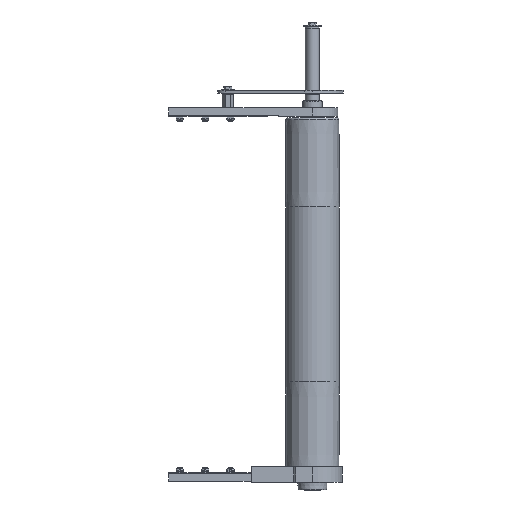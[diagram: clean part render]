
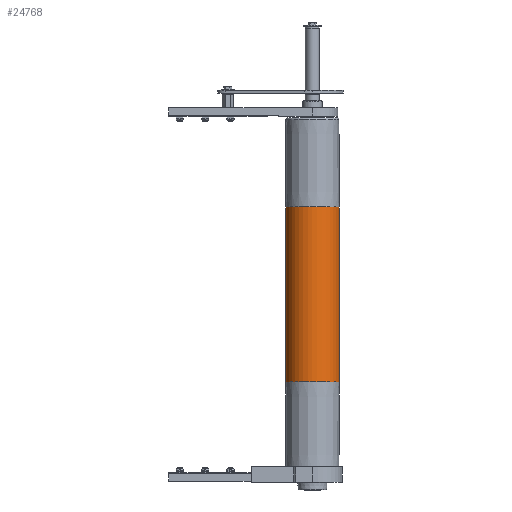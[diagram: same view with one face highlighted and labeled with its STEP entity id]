
A CAD part, front view. The second image highlights one B-rep face of the part: STEP entity #24768.
In plain terms, the highlighted cylindrical face has radius 47.5 mm (diameter 95 mm), a partial arc.
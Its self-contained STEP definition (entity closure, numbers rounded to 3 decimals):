
#450 = VECTOR ( 'NONE', #22183, 1000. ) ;
#1431 = CARTESIAN_POINT ( 'NONE',  ( 155., 0., -47.5 ) ) ;
#2224 = DIRECTION ( 'NONE',  ( 0., 0., -1. ) ) ;
#2433 = AXIS2_PLACEMENT_3D ( 'NONE', #22683, #25183, #15197 ) ;
#3269 = CYLINDRICAL_SURFACE ( 'NONE', #2433, 47.5 ) ;
#3391 = DIRECTION ( 'NONE',  ( 0., 0., -1. ) ) ;
#3518 = LINE ( 'NONE', #7624, #8581 ) ;
#4313 = VERTEX_POINT ( 'NONE', #21043 ) ;
#4398 = CARTESIAN_POINT ( 'NONE',  ( 310., 0., 47.5 ) ) ;
#7574 = EDGE_CURVE ( 'NONE', #25500, #13771, #3518, .T. ) ;
#7624 = CARTESIAN_POINT ( 'NONE',  ( 310., 0., -47.5 ) ) ;
#8581 = VECTOR ( 'NONE', #14795, 1000. ) ;
#9627 = ORIENTED_EDGE ( 'NONE', *, *, #31960, .T. ) ;
#10685 = CARTESIAN_POINT ( 'NONE',  ( -155., 0., -47.5 ) ) ;
#11296 = DIRECTION ( 'NONE',  ( 1., 0., 0. ) ) ;
#12395 = ORIENTED_EDGE ( 'NONE', *, *, #29609, .F. ) ;
#13771 = VERTEX_POINT ( 'NONE', #10685 ) ;
#14403 = AXIS2_PLACEMENT_3D ( 'NONE', #31939, #17051, #2224 ) ;
#14795 = DIRECTION ( 'NONE',  ( -1., 0., 0. ) ) ;
#15197 = DIRECTION ( 'NONE',  ( 0., 0., 1. ) ) ;
#15744 = CARTESIAN_POINT ( 'NONE',  ( 155., 0., 0. ) ) ;
#16526 = ORIENTED_EDGE ( 'NONE', *, *, #31080, .T. ) ;
#16840 = CIRCLE ( 'NONE', #20839, 47.5 ) ;
#17051 = DIRECTION ( 'NONE',  ( 1., 0., 0. ) ) ;
#18560 = VERTEX_POINT ( 'NONE', #26129 ) ;
#20839 = AXIS2_PLACEMENT_3D ( 'NONE', #15744, #11296, #3391 ) ;
#21043 = CARTESIAN_POINT ( 'NONE',  ( 155., 0., 47.5 ) ) ;
#21200 = EDGE_LOOP ( 'NONE', ( #23877, #12395, #9627, #16526 ) ) ;
#21548 = FACE_OUTER_BOUND ( 'NONE', #21200, .T. ) ;
#22183 = DIRECTION ( 'NONE',  ( -1., 0., 0. ) ) ;
#22683 = CARTESIAN_POINT ( 'NONE',  ( 310., 0., 0. ) ) ;
#23877 = ORIENTED_EDGE ( 'NONE', *, *, #7574, .F. ) ;
#24768 = ADVANCED_FACE ( 'NONE', ( #21548 ), #3269, .T. ) ;
#25183 = DIRECTION ( 'NONE',  ( -1., 0., 0. ) ) ;
#25360 = CIRCLE ( 'NONE', #14403, 47.5 ) ;
#25500 = VERTEX_POINT ( 'NONE', #1431 ) ;
#26129 = CARTESIAN_POINT ( 'NONE',  ( -155., 0., 47.5 ) ) ;
#29609 = EDGE_CURVE ( 'NONE', #4313, #25500, #16840, .T. ) ;
#30744 = LINE ( 'NONE', #4398, #450 ) ;
#31080 = EDGE_CURVE ( 'NONE', #18560, #13771, #25360, .T. ) ;
#31939 = CARTESIAN_POINT ( 'NONE',  ( -155., 0., 0. ) ) ;
#31960 = EDGE_CURVE ( 'NONE', #4313, #18560, #30744, .T. ) ;
